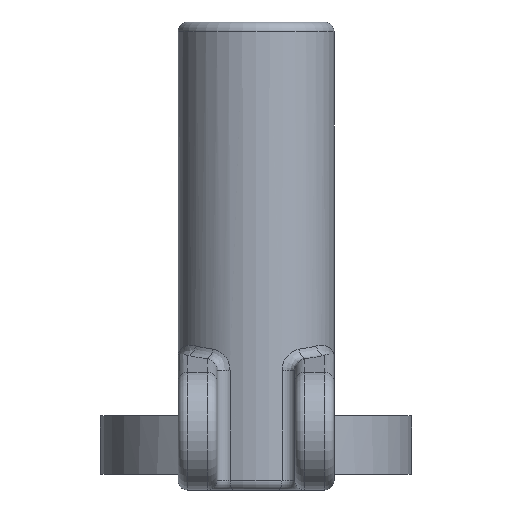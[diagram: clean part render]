
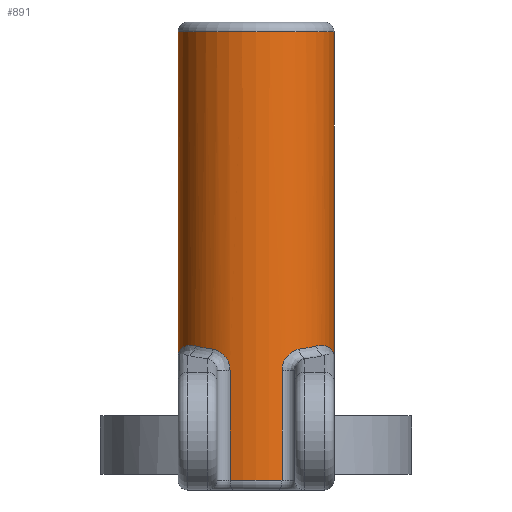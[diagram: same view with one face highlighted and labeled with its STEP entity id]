
A CAD part, front view. The second image highlights one B-rep face of the part: STEP entity #891.
In plain terms, the highlighted cylindrical face has radius 25.4 mm (diameter 50.8 mm), a full revolution.
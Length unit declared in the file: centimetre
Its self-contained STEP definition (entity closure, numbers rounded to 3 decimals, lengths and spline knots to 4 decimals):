
#264=ELLIPSE('',#1965,2.593,2.54);
#265=ELLIPSE('',#1967,2.593,2.54);
#268=B_SPLINE_CURVE_WITH_KNOTS('',3,(#2467,#2468,#2469,#2470,#2471,#2472,
#2473,#2474,#2475,#2476),.UNSPECIFIED.,.F.,.U.,(4,2,2,2,4),(-0.004,
0.6977,1.3302,1.7255,1.9726),.UNSPECIFIED.);
#269=B_SPLINE_CURVE_WITH_KNOTS('',3,(#2485,#2486,#2487,#2488,#2489,#2490,
#2491,#2492,#2493,#2494),.UNSPECIFIED.,.F.,.U.,(4,2,2,2,4),(0.,
0.2471,0.6424,1.2749,1.9766),.UNSPECIFIED.);
#270=B_SPLINE_CURVE_WITH_KNOTS('',3,(#2498,#2499,#2500,#2501,#2502,#2503,
#2504,#2505,#2506,#2507),.UNSPECIFIED.,.F.,.U.,(4,2,2,2,4),(0.,
0.1364,0.3548,0.7041,1.0916),
.UNSPECIFIED.);
#271=B_SPLINE_CURVE_WITH_KNOTS('',3,(#2515,#2516,#2517,#2518,#2519,#2520,
#2521,#2522,#2523,#2524),.UNSPECIFIED.,.F.,.U.,(4,2,2,2,4),(0.,
0.1365,0.3548,0.7041,1.0917),
.UNSPECIFIED.);
#286=CYLINDRICAL_SURFACE('',#1963,2.54);
#305=VERTEX_POINT('',#2465);
#306=VERTEX_POINT('',#2477);
#307=VERTEX_POINT('',#2478);
#308=VERTEX_POINT('',#2480);
#309=VERTEX_POINT('',#2482);
#310=VERTEX_POINT('',#2484);
#311=VERTEX_POINT('',#2495);
#312=VERTEX_POINT('',#2497);
#313=VERTEX_POINT('',#2508);
#314=VERTEX_POINT('',#2510);
#315=VERTEX_POINT('',#2512);
#316=VERTEX_POINT('',#2514);
#317=VERTEX_POINT('',#2525);
#385=EDGE_CURVE('',#305,#305,#1754,.T.);
#386=EDGE_CURVE('',#306,#307,#268,.T.);
#387=EDGE_CURVE('',#308,#306,#1022,.T.);
#388=EDGE_CURVE('',#309,#308,#1755,.T.);
#389=EDGE_CURVE('',#309,#310,#1023,.T.);
#390=EDGE_CURVE('',#311,#310,#269,.T.);
#391=EDGE_CURVE('',#312,#311,#264,.T.);
#392=EDGE_CURVE('',#313,#312,#270,.F.);
#393=EDGE_CURVE('',#314,#313,#1024,.T.);
#394=EDGE_CURVE('',#315,#314,#1756,.T.);
#395=EDGE_CURVE('',#316,#315,#1025,.T.);
#396=EDGE_CURVE('',#317,#316,#271,.F.);
#397=EDGE_CURVE('',#307,#317,#265,.T.);
#512=ORIENTED_EDGE('',*,*,#386,.F.);
#513=ORIENTED_EDGE('',*,*,#387,.F.);
#514=ORIENTED_EDGE('',*,*,#388,.F.);
#515=ORIENTED_EDGE('',*,*,#389,.T.);
#516=ORIENTED_EDGE('',*,*,#390,.F.);
#517=ORIENTED_EDGE('',*,*,#391,.F.);
#518=ORIENTED_EDGE('',*,*,#392,.F.);
#519=ORIENTED_EDGE('',*,*,#393,.F.);
#520=ORIENTED_EDGE('',*,*,#394,.F.);
#521=ORIENTED_EDGE('',*,*,#395,.F.);
#522=ORIENTED_EDGE('',*,*,#396,.F.);
#523=ORIENTED_EDGE('',*,*,#397,.F.);
#524=ORIENTED_EDGE('',*,*,#385,.F.);
#764=EDGE_LOOP('',(#512,#513,#514,#515,#516,#517,#518,#519,#520,#521,#522,
#523));
#765=EDGE_LOOP('',(#524));
#828=FACE_BOUND('',#764,.T.);
#829=FACE_BOUND('',#765,.T.);
#891=ADVANCED_FACE('',(#828,#829),#286,.T.);
#1022=LINE('',#2479,#2118);
#1023=LINE('',#2483,#2119);
#1024=LINE('',#2509,#2120);
#1025=LINE('',#2513,#2121);
#1754=CIRCLE('',#1962,2.54);
#1755=CIRCLE('',#1964,2.54);
#1756=CIRCLE('',#1966,2.54);
#1962=AXIS2_PLACEMENT_3D('',#2464,#3458,#3459);
#1963=AXIS2_PLACEMENT_3D('',#2466,#3460,#3461);
#1964=AXIS2_PLACEMENT_3D('',#2481,#3463,#3464);
#1965=AXIS2_PLACEMENT_3D('',#2496,#3466,#3467);
#1966=AXIS2_PLACEMENT_3D('',#2511,#3469,#3470);
#1967=AXIS2_PLACEMENT_3D('',#2526,#3472,#3473);
#2118=VECTOR('',#3462,1.);
#2119=VECTOR('',#3465,1.);
#2120=VECTOR('',#3468,1.);
#2121=VECTOR('',#3471,1.);
#2464=CARTESIAN_POINT('',(0.,0.,14.9225));
#2465=CARTESIAN_POINT('',(2.54,0.,14.9225));
#2466=CARTESIAN_POINT('',(0.,0.,0.));
#2467=CARTESIAN_POINT('',(2.54,0.,4.3763));
#2468=CARTESIAN_POINT('',(2.54,-0.1993,4.4428));
#2469=CARTESIAN_POINT('',(2.5164,-0.3999,4.5099));
#2470=CARTESIAN_POINT('',(2.4265,-0.7726,4.6188));
#2471=CARTESIAN_POINT('',(2.3637,-0.9481,4.6633));
#2472=CARTESIAN_POINT('',(2.2309,-1.2199,4.7057));
#2473=CARTESIAN_POINT('',(2.1719,-1.3223,4.715));
#2474=CARTESIAN_POINT('',(2.0648,-1.481,4.7115));
#2475=CARTESIAN_POINT('',(2.0211,-1.5401,4.7056));
#2476=CARTESIAN_POINT('',(1.9756,-1.5965,4.6941));
#2477=CARTESIAN_POINT('',(2.54,0.,4.3763));
#2478=CARTESIAN_POINT('',(1.9756,-1.5965,4.6941));
#2479=CARTESIAN_POINT('',(2.54,0.,0.));
#2480=CARTESIAN_POINT('',(2.54,0.,2.4003));
#2481=CARTESIAN_POINT('',(0.,0.,2.4003));
#2482=CARTESIAN_POINT('',(-2.54,0.,2.4003));
#2483=CARTESIAN_POINT('',(-2.54,0.,0.));
#2484=CARTESIAN_POINT('',(-2.54,0.,4.3763));
#2485=CARTESIAN_POINT('',(-1.9756,-1.5965,4.6941));
#2486=CARTESIAN_POINT('',(-2.0211,-1.5401,4.7056));
#2487=CARTESIAN_POINT('',(-2.0648,-1.481,4.7115));
#2488=CARTESIAN_POINT('',(-2.1719,-1.3223,4.715));
#2489=CARTESIAN_POINT('',(-2.2309,-1.2199,4.7057));
#2490=CARTESIAN_POINT('',(-2.3637,-0.9481,4.6633));
#2491=CARTESIAN_POINT('',(-2.4265,-0.7726,4.6188));
#2492=CARTESIAN_POINT('',(-2.5164,-0.3999,4.5099));
#2493=CARTESIAN_POINT('',(-2.54,-0.1993,4.4428));
#2494=CARTESIAN_POINT('',(-2.54,0.,4.3763));
#2495=CARTESIAN_POINT('',(-1.9756,-1.5965,4.6941));
#2496=CARTESIAN_POINT('',(0.,0.,5.0217));
#2497=CARTESIAN_POINT('',(-1.4111,-2.112,4.5883));
#2498=CARTESIAN_POINT('',(-1.4111,-2.112,4.5883));
#2499=CARTESIAN_POINT('',(-1.3777,-2.1343,4.5837));
#2500=CARTESIAN_POINT('',(-1.3436,-2.1559,4.5758));
#2501=CARTESIAN_POINT('',(-1.2555,-2.2089,4.5465));
#2502=CARTESIAN_POINT('',(-1.2018,-2.2384,4.5198));
#2503=CARTESIAN_POINT('',(-1.0703,-2.3053,4.4281));
#2504=CARTESIAN_POINT('',(-0.9962,-2.3372,4.3482));
#2505=CARTESIAN_POINT('',(-0.8819,-2.3829,4.1434));
#2506=CARTESIAN_POINT('',(-0.8467,-2.3947,4.0139));
#2507=CARTESIAN_POINT('',(-0.8467,-2.3947,3.8847));
#2508=CARTESIAN_POINT('',(-0.8467,-2.3947,3.8847));
#2509=CARTESIAN_POINT('',(-0.8467,-2.3947,0.));
#2510=CARTESIAN_POINT('',(-0.8467,-2.3947,0.3175));
#2511=CARTESIAN_POINT('',(0.,0.,0.3175));
#2512=CARTESIAN_POINT('',(0.8467,-2.3947,0.3175));
#2513=CARTESIAN_POINT('',(0.8467,-2.3947,0.));
#2514=CARTESIAN_POINT('',(0.8467,-2.3947,3.8847));
#2515=CARTESIAN_POINT('',(0.8467,-2.3947,3.8847));
#2516=CARTESIAN_POINT('',(0.8467,-2.3947,3.9302));
#2517=CARTESIAN_POINT('',(0.8509,-2.3932,3.9761));
#2518=CARTESIAN_POINT('',(0.8725,-2.3855,4.0926));
#2519=CARTESIAN_POINT('',(0.8958,-2.377,4.1609));
#2520=CARTESIAN_POINT('',(0.978,-2.3448,4.3238));
#2521=CARTESIAN_POINT('',(1.0489,-2.315,4.4073));
#2522=CARTESIAN_POINT('',(1.2173,-2.2315,4.5356));
#2523=CARTESIAN_POINT('',(1.3161,-2.1754,4.5752));
#2524=CARTESIAN_POINT('',(1.4111,-2.112,4.5883));
#2525=CARTESIAN_POINT('',(1.4111,-2.112,4.5883));
#2526=CARTESIAN_POINT('',(0.,0.,5.0217));
#3458=DIRECTION('',(0.,0.,1.));
#3459=DIRECTION('',(-2.54,0.,0.));
#3460=DIRECTION('',(0.,0.,1.));
#3461=DIRECTION('',(2.54,0.,0.));
#3462=DIRECTION('',(0.,0.,1.));
#3463=DIRECTION('',(0.,0.,-1.));
#3464=DIRECTION('',(0.,2.54,0.));
#3465=DIRECTION('',(0.,0.,1.));
#3466=DIRECTION('',(0.,0.201,-0.98));
#3467=DIRECTION('',(0.,-2.54,-0.521));
#3468=DIRECTION('',(0.,0.,1.));
#3469=DIRECTION('',(0.,0.,-1.));
#3470=DIRECTION('',(0.,-2.54,0.));
#3471=DIRECTION('',(0.,0.,-1.));
#3472=DIRECTION('',(0.,0.201,-0.98));
#3473=DIRECTION('',(0.,-2.54,-0.521));
